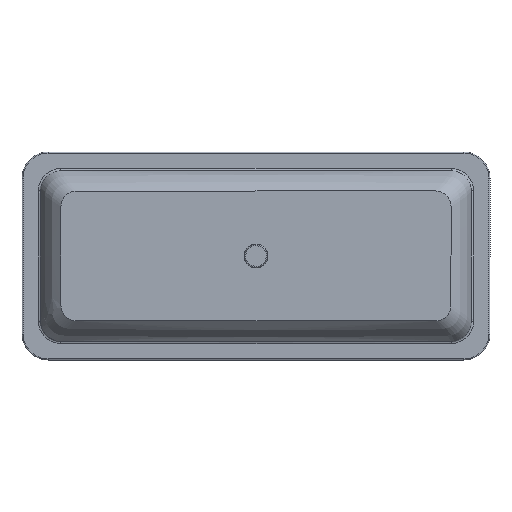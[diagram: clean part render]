
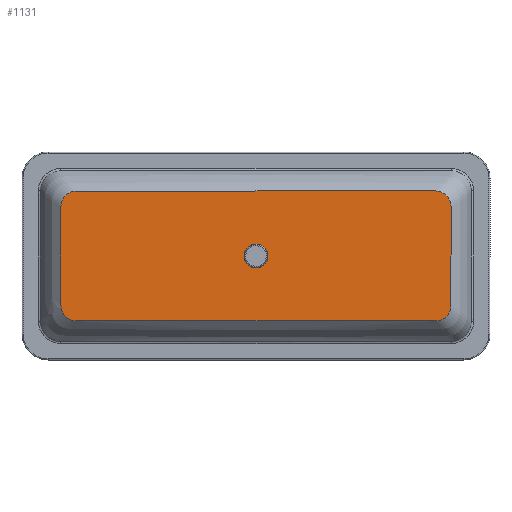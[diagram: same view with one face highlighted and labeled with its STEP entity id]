
A CAD part, front view. The second image highlights one B-rep face of the part: STEP entity #1131.
In plain terms, the highlighted planar face has unit normal (0, -1, 0).
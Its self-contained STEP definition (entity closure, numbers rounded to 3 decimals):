
#28 = ORIENTED_EDGE ( 'NONE', *, *, #6059, .F. ) ;
#178 = VECTOR ( 'NONE', #2251, 1000. ) ;
#404 = EDGE_CURVE ( 'NONE', #3817, #2954, #959, .T. ) ;
#419 = VERTEX_POINT ( 'NONE', #2002 ) ;
#507 = DIRECTION ( 'NONE',  ( 0., 0., 1. ) ) ;
#545 = DIRECTION ( 'NONE',  ( 0., 1., 0. ) ) ;
#581 = CARTESIAN_POINT ( 'NONE',  ( 345., -140., -125. ) ) ;
#644 = CARTESIAN_POINT ( 'NONE',  ( -345., -140., 125. ) ) ;
#763 = VERTEX_POINT ( 'NONE', #2142 ) ;
#787 = CIRCLE ( 'NONE', #1414, 30. ) ;
#813 = CARTESIAN_POINT ( 'NONE',  ( -345., -140., -95. ) ) ;
#959 = CIRCLE ( 'NONE', #2783, 30. ) ;
#1131 = ADVANCED_FACE ( 'NONE', ( #3583, #4541 ), #4569, .F. ) ;
#1317 = VECTOR ( 'NONE', #4430, 1000. ) ;
#1414 = AXIS2_PLACEMENT_3D ( 'NONE', #1983, #5387, #5355 ) ;
#1439 = VERTEX_POINT ( 'NONE', #4518 ) ;
#1540 = ORIENTED_EDGE ( 'NONE', *, *, #4380, .F. ) ;
#1615 = DIRECTION ( 'NONE',  ( 0., 0., -1. ) ) ;
#1640 = CARTESIAN_POINT ( 'NONE',  ( -375., -140., -95. ) ) ;
#1790 = LINE ( 'NONE', #4707, #178 ) ;
#1983 = CARTESIAN_POINT ( 'NONE',  ( 345., -140., 95. ) ) ;
#2002 = CARTESIAN_POINT ( 'NONE',  ( 375., -140., 95. ) ) ;
#2013 = CARTESIAN_POINT ( 'NONE',  ( -345., -140., -125. ) ) ;
#2020 = DIRECTION ( 'NONE',  ( 0., -1., 0. ) ) ;
#2108 = AXIS2_PLACEMENT_3D ( 'NONE', #3797, #5296, #4757 ) ;
#2121 = DIRECTION ( 'NONE',  ( 0., 1., 0. ) ) ;
#2142 = CARTESIAN_POINT ( 'NONE',  ( 345., -140., 125. ) ) ;
#2251 = DIRECTION ( 'NONE',  ( 1., 0., 0. ) ) ;
#2345 = ORIENTED_EDGE ( 'NONE', *, *, #3466, .F. ) ;
#2363 = CARTESIAN_POINT ( 'NONE',  ( 0., -140., -23. ) ) ;
#2366 = DIRECTION ( 'NONE',  ( 0., 0., 1. ) ) ;
#2425 = ORIENTED_EDGE ( 'NONE', *, *, #3479, .F. ) ;
#2509 = EDGE_LOOP ( 'NONE', ( #4045 ) ) ;
#2629 = EDGE_CURVE ( 'NONE', #4943, #763, #1790, .T. ) ;
#2783 = AXIS2_PLACEMENT_3D ( 'NONE', #4931, #5408, #507 ) ;
#2912 = CARTESIAN_POINT ( 'NONE',  ( 375., -140., 95. ) ) ;
#2934 = CARTESIAN_POINT ( 'NONE',  ( 0., -140., 0. ) ) ;
#2954 = VERTEX_POINT ( 'NONE', #4347 ) ;
#2959 = CARTESIAN_POINT ( 'NONE',  ( -345., -140., 95. ) ) ;
#2985 = ORIENTED_EDGE ( 'NONE', *, *, #404, .F. ) ;
#3006 = EDGE_CURVE ( 'NONE', #4978, #3817, #4893, .T. ) ;
#3208 = AXIS2_PLACEMENT_3D ( 'NONE', #2934, #2020, #1615 ) ;
#3372 = VECTOR ( 'NONE', #5368, 1000. ) ;
#3383 = CARTESIAN_POINT ( 'NONE',  ( 345., -140., -125. ) ) ;
#3466 = EDGE_CURVE ( 'NONE', #763, #419, #787, .T. ) ;
#3479 = EDGE_CURVE ( 'NONE', #4635, #4943, #5364, .T. ) ;
#3583 = FACE_BOUND ( 'NONE', #2509, .T. ) ;
#3634 = CARTESIAN_POINT ( 'NONE',  ( -375., -140., 95. ) ) ;
#3790 = EDGE_CURVE ( 'NONE', #2954, #4635, #4941, .T. ) ;
#3797 = CARTESIAN_POINT ( 'NONE',  ( 345., -140., -95. ) ) ;
#3817 = VERTEX_POINT ( 'NONE', #2013 ) ;
#4045 = ORIENTED_EDGE ( 'NONE', *, *, #4970, .F. ) ;
#4240 = AXIS2_PLACEMENT_3D ( 'NONE', #2959, #545, #2366 ) ;
#4293 = ORIENTED_EDGE ( 'NONE', *, *, #2629, .F. ) ;
#4347 = CARTESIAN_POINT ( 'NONE',  ( -375., -140., -95. ) ) ;
#4380 = EDGE_CURVE ( 'NONE', #1439, #4978, #4447, .T. ) ;
#4430 = DIRECTION ( 'NONE',  ( 0., 0., 1. ) ) ;
#4447 = CIRCLE ( 'NONE', #2108, 30. ) ;
#4518 = CARTESIAN_POINT ( 'NONE',  ( 375., -140., -95. ) ) ;
#4541 = FACE_OUTER_BOUND ( 'NONE', #6313, .T. ) ;
#4569 = PLANE ( 'NONE',  #5924 ) ;
#4635 = VERTEX_POINT ( 'NONE', #3634 ) ;
#4658 = VECTOR ( 'NONE', #6299, 1000. ) ;
#4707 = CARTESIAN_POINT ( 'NONE',  ( -345., -140., 125. ) ) ;
#4757 = DIRECTION ( 'NONE',  ( 0., 0., 1. ) ) ;
#4863 = LINE ( 'NONE', #2912, #3372 ) ;
#4893 = LINE ( 'NONE', #3383, #4658 ) ;
#4931 = CARTESIAN_POINT ( 'NONE',  ( -345., -140., -95. ) ) ;
#4941 = LINE ( 'NONE', #1640, #1317 ) ;
#4943 = VERTEX_POINT ( 'NONE', #644 ) ;
#4970 = EDGE_CURVE ( 'NONE', #5325, #5325, #5983, .T. ) ;
#4978 = VERTEX_POINT ( 'NONE', #581 ) ;
#5103 = ORIENTED_EDGE ( 'NONE', *, *, #3006, .F. ) ;
#5296 = DIRECTION ( 'NONE',  ( 0., 1., 0. ) ) ;
#5325 = VERTEX_POINT ( 'NONE', #2363 ) ;
#5355 = DIRECTION ( 'NONE',  ( 0., 0., -1. ) ) ;
#5364 = CIRCLE ( 'NONE', #4240, 30. ) ;
#5368 = DIRECTION ( 'NONE',  ( 0., 0., -1. ) ) ;
#5387 = DIRECTION ( 'NONE',  ( 0., 1., 0. ) ) ;
#5408 = DIRECTION ( 'NONE',  ( 0., 1., 0. ) ) ;
#5621 = DIRECTION ( 'NONE',  ( 0., 0., 1. ) ) ;
#5924 = AXIS2_PLACEMENT_3D ( 'NONE', #813, #2121, #5621 ) ;
#5983 = CIRCLE ( 'NONE', #3208, 23. ) ;
#6059 = EDGE_CURVE ( 'NONE', #419, #1439, #4863, .T. ) ;
#6061 = ORIENTED_EDGE ( 'NONE', *, *, #3790, .F. ) ;
#6299 = DIRECTION ( 'NONE',  ( -1., 0., 0. ) ) ;
#6313 = EDGE_LOOP ( 'NONE', ( #2985, #5103, #1540, #28, #2345, #4293, #2425, #6061 ) ) ;
